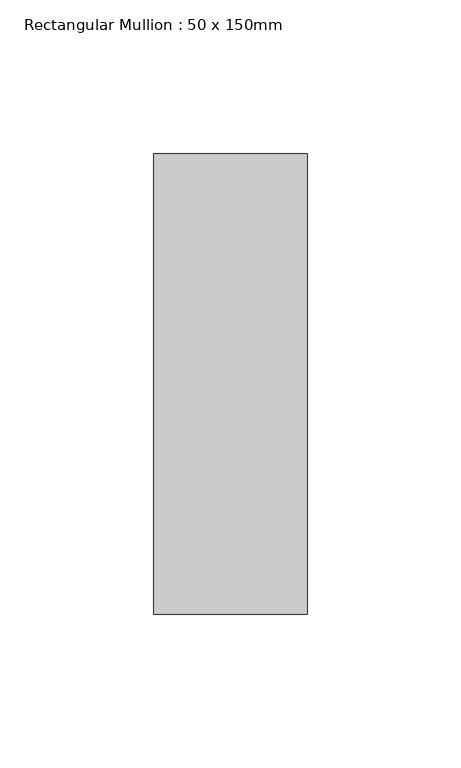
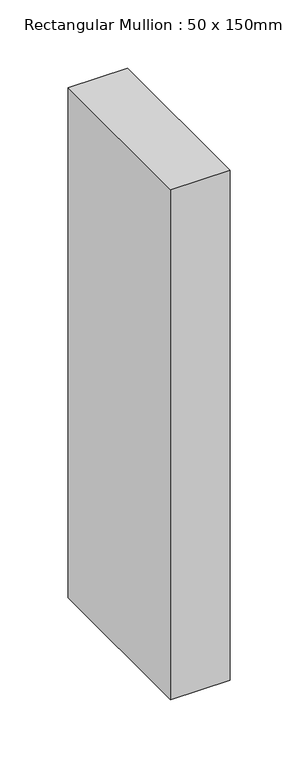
"""IFC4 building model written with IfcOpenShell, lengths in millimetres: member geometry, Rectangular Mullion : 50 x 150mm."""

from ifc_helpers import new_model, si_unit, frame, origin, place, context, project, spatial, polyline, outline, extrude, source, transform, mapped, element, save


def rectangular_mullion_50_x_150mm_92e7435e(model_context):
    return source(origin(), model_context, "Body", "SweptSolid", [
        extrude(outline(polyline([(25.0, 75.0), (25.0, -75.0), (-25.0, -75.0), (-25.0, 75.0), (25.0, 75.0)])), frame((0.0, 0.0, -455.2574105), z_axis=(0.0, 0.0, 1.0), x_axis=(1.0, 0.0, 0.0)), (0.0, 0.0, 1.0), 455.2574105),
    ])


if __name__ == "__main__":
    model = new_model("IFC4")
    model_context = context("Model", 3, world=origin())
    ifc_project = project(units=[si_unit("LENGTHUNIT", "METRE", prefix="MILLI")], contexts=[model_context])
    site = spatial("IfcSite", under=ifc_project)
    building = spatial("IfcBuilding", under=site)
    placement = place(None, origin())
    rectangular_mullion_50_x_150mm_shape = rectangular_mullion_50_x_150mm_92e7435e(model_context)
    element("IfcMember", 1, ObjectType="Rectangular Mullion : 50 x 150mm", at=placement, inside=building, context=model_context, shape_type="MappedRepresentation", body=[
        mapped(rectangular_mullion_50_x_150mm_shape, transform((0.0, 0.0, 0.0), x_axis=(1.0, 0.0, 0.0), y_axis=(0.0, 1.0, 0.0), z_axis=(0.0, 0.0, 1.0))),
    ])
    save(model, "model.ifc")
